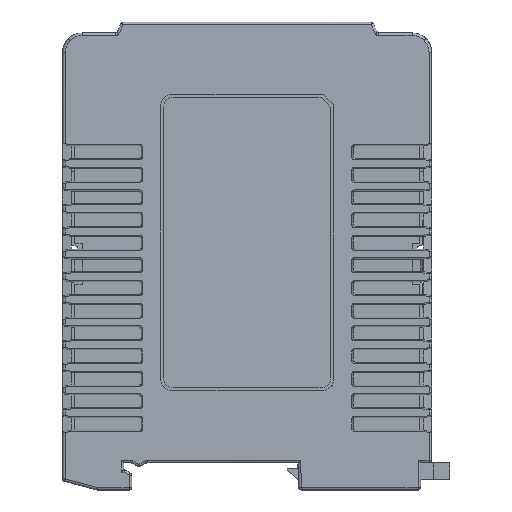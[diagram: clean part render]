
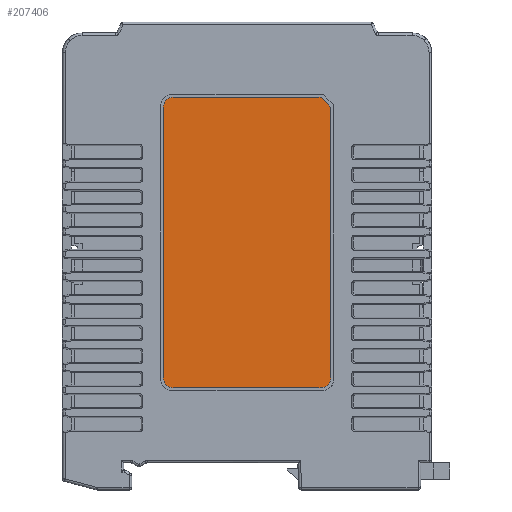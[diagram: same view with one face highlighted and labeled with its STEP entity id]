
A CAD part, front view. The second image highlights one B-rep face of the part: STEP entity #207406.
In plain terms, the highlighted planar face has unit normal (0, -1, 0) as drawn and (0, 0, 1) by its records, which use the part's own axes.
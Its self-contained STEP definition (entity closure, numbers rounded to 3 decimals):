
#207164=DIRECTION('',(0.707,0.707,0.));
#207165=VECTOR('',#207164,2.828);
#207166=CARTESIAN_POINT('',(27.5,-17.,0.05));
#207167=LINE('',#207166,#207165);
#207171=DIRECTION('',(1.,0.,0.));
#207172=VECTOR('',#207171,55.);
#207173=CARTESIAN_POINT('',(-27.5,-17.,0.05));
#207174=LINE('',#207173,#207172);
#207178=CARTESIAN_POINT('',(-27.5,-15.,0.05));
#207179=DIRECTION('',(0.,0.,1.));
#207180=DIRECTION('',(-1.,0.,0.));
#207181=AXIS2_PLACEMENT_3D('',#207178,#207179,#207180);
#207186=DIRECTION('',(0.,-1.,0.));
#207187=VECTOR('',#207186,30.);
#207188=CARTESIAN_POINT('',(-29.5,15.,0.05));
#207189=LINE('',#207188,#207187);
#207193=CARTESIAN_POINT('',(-27.5,15.,0.05));
#207194=DIRECTION('',(0.,0.,1.));
#207195=DIRECTION('',(0.,1.,0.));
#207196=AXIS2_PLACEMENT_3D('',#207193,#207194,#207195);
#207201=DIRECTION('',(-1.,0.,0.));
#207202=VECTOR('',#207201,55.);
#207203=CARTESIAN_POINT('',(27.5,17.,0.05));
#207204=LINE('',#207203,#207202);
#207208=CARTESIAN_POINT('',(27.5,15.,0.05));
#207209=DIRECTION('',(0.,0.,1.));
#207210=DIRECTION('',(1.,0.,0.));
#207211=AXIS2_PLACEMENT_3D('',#207208,#207209,#207210);
#207216=DIRECTION('',(0.,1.,0.));
#207217=VECTOR('',#207216,30.);
#207218=CARTESIAN_POINT('',(29.5,-15.,0.05));
#207219=LINE('',#207218,#207217);
#207227=CARTESIAN_POINT('',(29.5,15.,0.05));
#207228=VERTEX_POINT('',#207227);
#207229=CARTESIAN_POINT('',(27.5,17.,0.05));
#207230=VERTEX_POINT('',#207229);
#207235=CARTESIAN_POINT('',(-27.5,17.,0.05));
#207236=VERTEX_POINT('',#207235);
#207237=CARTESIAN_POINT('',(-29.5,15.,0.05));
#207238=VERTEX_POINT('',#207237);
#207243=CARTESIAN_POINT('',(-29.5,-15.,0.05));
#207244=VERTEX_POINT('',#207243);
#207245=CARTESIAN_POINT('',(-27.5,-17.,0.05));
#207246=VERTEX_POINT('',#207245);
#207251=CARTESIAN_POINT('',(27.5,-17.,0.05));
#207252=VERTEX_POINT('',#207251);
#207253=CARTESIAN_POINT('',(29.5,-15.,0.05));
#207254=VERTEX_POINT('',#207253);
#207391=CARTESIAN_POINT('',(0.,0.,0.05));
#207392=DIRECTION('',(0.,0.,1.));
#207393=DIRECTION('',(1.,0.,0.));
#207394=AXIS2_PLACEMENT_3D('',#207391,#207392,#207393);
#207395=PLANE('',#207394);
#207396=ORIENTED_EDGE('',*,*,#207287,.F.);
#207397=ORIENTED_EDGE('',*,*,#207303,.F.);
#207398=ORIENTED_EDGE('',*,*,#207316,.F.);
#207399=ORIENTED_EDGE('',*,*,#207329,.F.);
#207400=ORIENTED_EDGE('',*,*,#207344,.F.);
#207401=ORIENTED_EDGE('',*,*,#207357,.F.);
#207402=ORIENTED_EDGE('',*,*,#207372,.F.);
#207403=ORIENTED_EDGE('',*,*,#207384,.F.);
#207404=EDGE_LOOP('',(#207396,#207397,#207398,#207399,#207400,#207401,#207402,
#207403));
#207405=FACE_OUTER_BOUND('',#207404,.F.);
#207182=CIRCLE('',#207181,2.);
#207197=CIRCLE('',#207196,2.);
#207212=CIRCLE('',#207211,2.);
#207287=EDGE_CURVE('',#207252,#207254,#207167,.T.);
#207303=EDGE_CURVE('',#207246,#207252,#207174,.T.);
#207316=EDGE_CURVE('',#207244,#207246,#207182,.T.);
#207329=EDGE_CURVE('',#207238,#207244,#207189,.T.);
#207344=EDGE_CURVE('',#207236,#207238,#207197,.T.);
#207357=EDGE_CURVE('',#207230,#207236,#207204,.T.);
#207372=EDGE_CURVE('',#207228,#207230,#207212,.T.);
#207384=EDGE_CURVE('',#207254,#207228,#207219,.T.);
#207406=ADVANCED_FACE('',(#207405),#207395,.T.);
